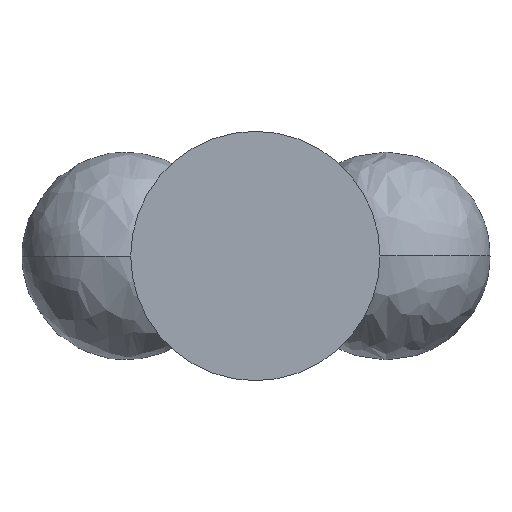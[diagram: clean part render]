
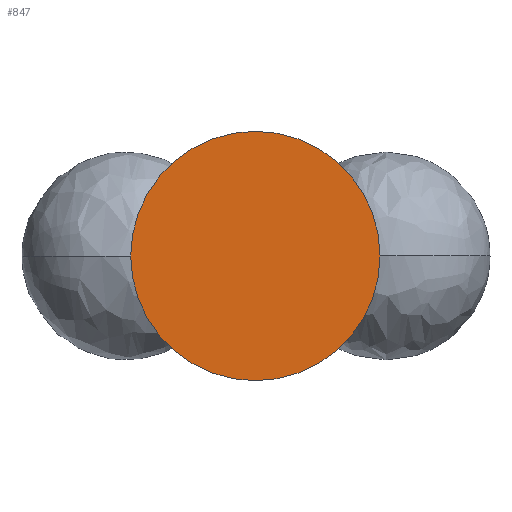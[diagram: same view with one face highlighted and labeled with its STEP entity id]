
A CAD part, left-side view. The second image highlights one B-rep face of the part: STEP entity #847.
In plain terms, the highlighted planar face has unit normal (-1, 0, 0).
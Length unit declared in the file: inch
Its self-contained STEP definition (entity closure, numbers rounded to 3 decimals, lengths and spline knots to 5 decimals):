
#239 = VERTEX_POINT ( 'NONE', #1774 ) ;
#515 = DIRECTION ( 'NONE',  ( 1., 0., 0. ) ) ;
#554 = DIRECTION ( 'NONE',  ( 0., 0., -1. ) ) ;
#637 = DIRECTION ( 'NONE',  ( 1., 0., 0. ) ) ;
#658 = AXIS2_PLACEMENT_3D ( 'NONE', #1035, #637, #1765 ) ;
#675 = CARTESIAN_POINT ( 'NONE',  ( -3.5422, 2.47316, 0. ) ) ;
#745 = EDGE_CURVE ( 'NONE', #239, #1629, #1632, .T. ) ;
#847 = ADVANCED_FACE ( 'NONE', ( #1393 ), #969, .F. ) ;
#969 = PLANE ( 'NONE',  #1190 ) ;
#1010 = CIRCLE ( 'NONE', #1244, 2.36 ) ;
#1035 = CARTESIAN_POINT ( 'NONE',  ( -3.5422, 2.47316, 0. ) ) ;
#1061 = ORIENTED_EDGE ( 'NONE', *, *, #745, .F. ) ;
#1190 = AXIS2_PLACEMENT_3D ( 'NONE', #675, #1653, #554 ) ;
#1218 = ORIENTED_EDGE ( 'NONE', *, *, #1555, .F. ) ;
#1220 = DIRECTION ( 'NONE',  ( 0., 0., -1. ) ) ;
#1244 = AXIS2_PLACEMENT_3D ( 'NONE', #1359, #515, #1220 ) ;
#1261 = CARTESIAN_POINT ( 'NONE',  ( -3.5422, 2.47316, 2.36 ) ) ;
#1359 = CARTESIAN_POINT ( 'NONE',  ( -3.5422, 2.47316, 0. ) ) ;
#1393 = FACE_OUTER_BOUND ( 'NONE', #1410, .T. ) ;
#1410 = EDGE_LOOP ( 'NONE', ( #1061, #1218 ) ) ;
#1555 = EDGE_CURVE ( 'NONE', #1629, #239, #1010, .T. ) ;
#1629 = VERTEX_POINT ( 'NONE', #1261 ) ;
#1632 = CIRCLE ( 'NONE', #658, 2.36 ) ;
#1653 = DIRECTION ( 'NONE',  ( 1., 0., 0. ) ) ;
#1765 = DIRECTION ( 'NONE',  ( 0., 0., -1. ) ) ;
#1774 = CARTESIAN_POINT ( 'NONE',  ( -3.5422, 2.47316, -2.36 ) ) ;
